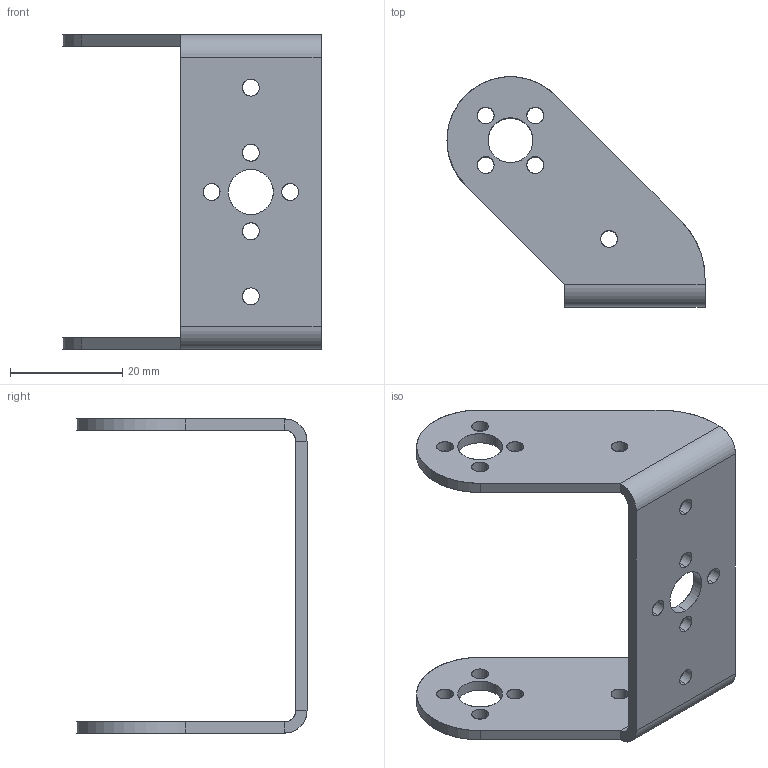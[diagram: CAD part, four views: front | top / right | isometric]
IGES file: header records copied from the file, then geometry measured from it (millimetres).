
Start section: SolidWorks IGES file using analytic representation for surfaces
Global section: file name: C:\Users\Alexandre\Dropbox\Etudes\Solidworks\Servo Mounts\Servo Bracket - U Shaped inclined_Défaut.igs; native system: SolidWorks 2015; preprocessor: SolidWorks 2015; author: Alexandre; date: 150906.125906; units: millimetre
Bounding box: 45.99 x 41 x 56 mm (x, y, z)
Surface area: 7421.4 mm2 (no closed solid volume)
Topology: 0 solids, 0 shells, 64 faces, 1624 edges, 1624 vertices
Faces by surface type: revolution 46, bspline 18
